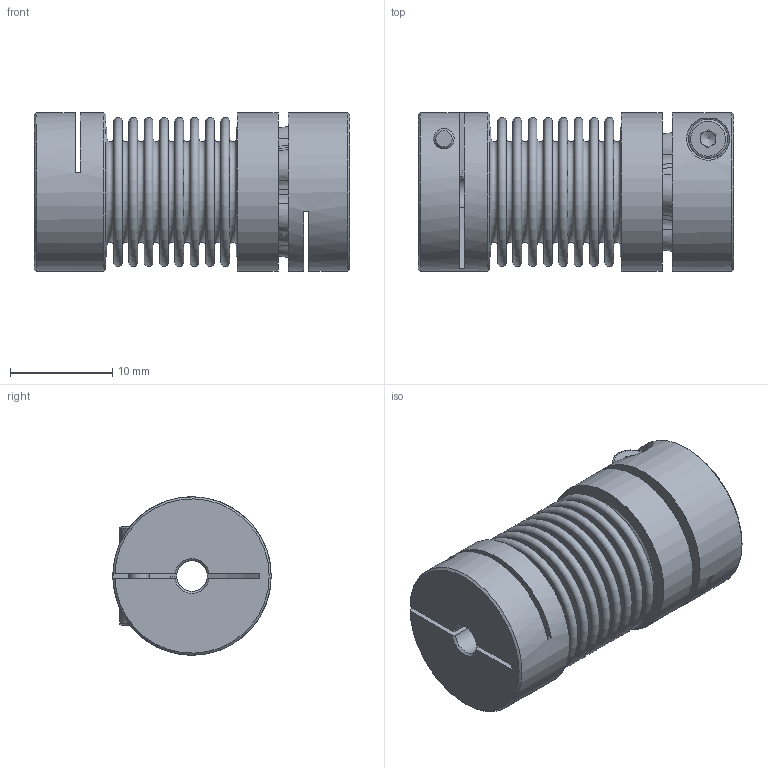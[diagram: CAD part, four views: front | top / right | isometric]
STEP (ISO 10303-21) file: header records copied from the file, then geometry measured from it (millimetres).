
FILE_DESCRIPTION( ( 'KBE1/14 - N7H8 - N14H7 - 98 Sh' ), '1' );
FILE_NAME( 'K:/Konstruktion/Fertigungszeichnungen/Metallbalgkupplung/KB2P/5-10/KB2P-10-30.stp', '14.12.2015', ( 'KBK-Antriebstechnik' ), ( 'KBK-Antriebstechnik' ), 'PSStep 16.0.42', 'Solid Edge St6', ' ' );
FILE_SCHEMA( ( 'AUTOMOTIVE_DESIGN { 1 0 10303 214 1 1 1 1 }' ) );
Length unit declared in the file: millimetre
Products named in the file (6): Assem1; Stecknabe KB2P-10; Socket Head Cap Screw_DIN_DIN 912 M2 x 8 --- 8N_5; KN5_Standard_2; Balgaufnahme KB2P-10_für Step; BM10_Standard_0
Assembly tree (6 placements, depth 2):
  Assem1
    Stecknabe KB2P-10
    Socket Head Cap Screw_DIN_DIN 912 M2 x 8 --- 8N_5  x2
    KN5_Standard_2
    Balgaufnahme KB2P-10_für Step
    BM10_Standard_0
Bounding box: 30.85 x 15.5 x 15.5 mm (x, y, z)
Volume: 3214.2 mm3; surface area: 6969.8 mm2
Topology: 6 solids, 6 shells, 212 faces, 462 edges, 301 vertices
Faces by surface type: plane 91, cone 54, torus 43, cylinder 24
Full cylindrical faces by diameter (mm): 1.567 x1, 2 x3, 2.2 x2, 3 x2, 3.8 x2, 12.9 x2, 13.1 x2, 15.5 x3
Entity records: 6863 total; most frequent: CARTESIAN_POINT 1074, DIRECTION 941, ORIENTED_EDGE 694, AXIS2_PLACEMENT_3D 422, EDGE_CURVE 347, EDGE_LOOP 305, VERTEX_POINT 281, FACE_OUTER_BOUND 247
